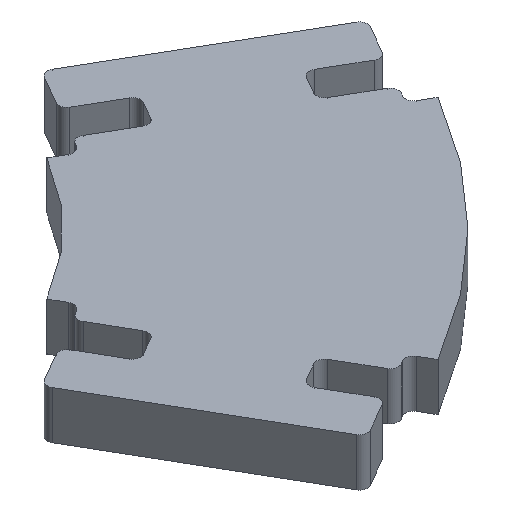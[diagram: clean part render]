
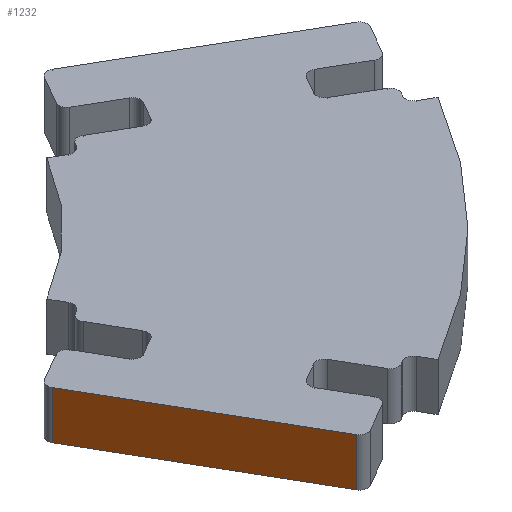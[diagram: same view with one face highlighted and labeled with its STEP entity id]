
A CAD part, isometric view. The second image highlights one B-rep face of the part: STEP entity #1232.
In plain terms, the highlighted planar face has unit normal (-0.866, -0.5, 0).
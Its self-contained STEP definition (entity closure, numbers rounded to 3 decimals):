
#186=FACE_OUTER_BOUND('',#240,.T.);
#240=EDGE_LOOP('',(#1054,#1055,#1056,#1057));
#353=LINE('',#1864,#483);
#415=LINE('',#2039,#545);
#416=LINE('',#2042,#546);
#417=LINE('',#2043,#547);
#483=VECTOR('',#1449,10.);
#545=VECTOR('',#1637,10.);
#546=VECTOR('',#1640,10.);
#547=VECTOR('',#1641,10.);
#632=VERTEX_POINT('',#1861);
#633=VERTEX_POINT('',#1863);
#683=VERTEX_POINT('',#2037);
#684=VERTEX_POINT('',#2041);
#736=EDGE_CURVE('',#632,#633,#353,.T.);
#824=EDGE_CURVE('',#632,#683,#415,.T.);
#825=EDGE_CURVE('',#684,#683,#416,.T.);
#826=EDGE_CURVE('',#633,#684,#417,.T.);
#1054=ORIENTED_EDGE('',*,*,#824,.T.);
#1055=ORIENTED_EDGE('',*,*,#825,.F.);
#1056=ORIENTED_EDGE('',*,*,#826,.F.);
#1057=ORIENTED_EDGE('',*,*,#736,.F.);
#1185=PLANE('',#1339);
#1232=ADVANCED_FACE('',(#186),#1185,.T.);
#1339=AXIS2_PLACEMENT_3D('',#2040,#1638,#1639);
#1449=DIRECTION('',(-0.5,0.866,0.));
#1637=DIRECTION('',(0.,0.,1.));
#1638=DIRECTION('center_axis',(-0.866,-0.5,0.));
#1639=DIRECTION('ref_axis',(0.5,-0.866,0.));
#1640=DIRECTION('',(0.5,-0.866,0.));
#1641=DIRECTION('',(0.,0.,1.));
#1861=CARTESIAN_POINT('',(12.854,-0.662,-1.5));
#1863=CARTESIAN_POINT('',(5.854,11.462,-1.5));
#1864=CARTESIAN_POINT('',(5.854,11.462,-1.5));
#2037=CARTESIAN_POINT('',(12.854,-0.662,1.5));
#2039=CARTESIAN_POINT('',(12.854,-0.662,0.));
#2040=CARTESIAN_POINT('Origin',(5.854,11.462,0.));
#2041=CARTESIAN_POINT('',(5.854,11.462,1.5));
#2042=CARTESIAN_POINT('',(5.854,11.462,1.5));
#2043=CARTESIAN_POINT('',(5.854,11.462,0.));
